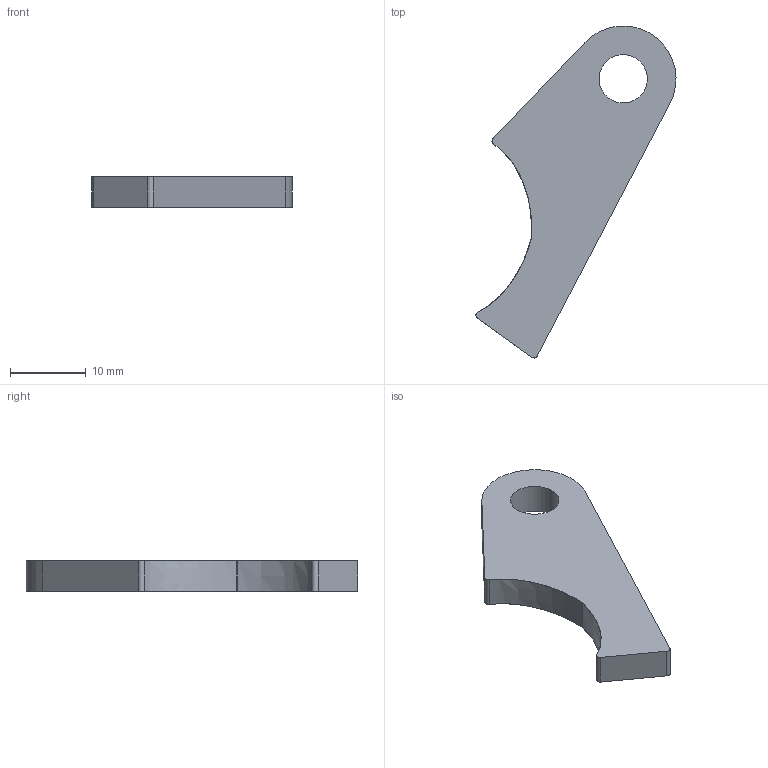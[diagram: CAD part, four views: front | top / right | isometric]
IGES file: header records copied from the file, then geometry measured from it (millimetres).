
Start section: START RECORD GO HERE.
Global section: file name: 20M_RL_RU.igs; native system: IBM CATIA IGES - CATIA Version 5 Release 19 ; preprocessor: CATIA Version 5 Release 19 ; author: alexb; organization: LAPTOP-PR6NE7IP; date: 20191216.214235; units: millimetre
Bounding box: 26.49 x 43.96 x 4 mm (x, y, z)
Surface area: 1552.4 mm2 (no closed solid volume)
Topology: 0 solids, 0 shells, 14 faces, 72 edges, 74 vertices
Faces by surface type: revolution 7, plane 5, extrusion 2
